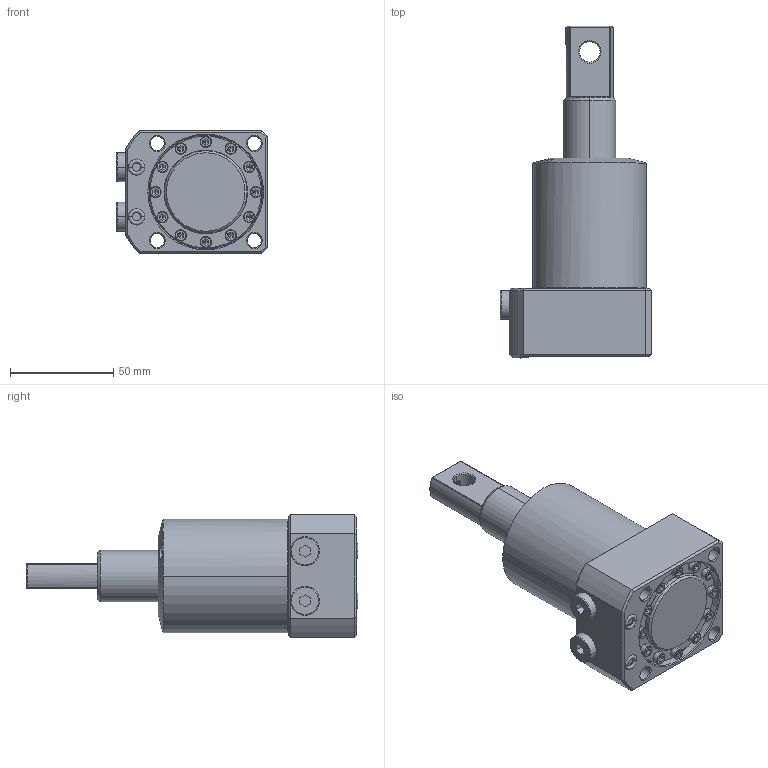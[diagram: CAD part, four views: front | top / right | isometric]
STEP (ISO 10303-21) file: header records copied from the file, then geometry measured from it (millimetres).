
FILE_DESCRIPTION((''),'2;1');
FILE_NAME('SIMP_GENERIC_SWING_CYD_55_PIN_ASM','2023-04-16T15:55:19',('Design 2'),(''),'CREO PARAMETRIC BY PTC INC, 2020053','CREO PARAMETRIC BY PTC INC, 2020053','');
FILE_SCHEMA(('CONFIG_CONTROL_DESIGN'));
Length unit declared in the file: millimetre
Products named in the file (13): BODY___; BODY_TOP_FLG____ASM; PIN_PISTON__D; PISTON_ASM____ASM; SWINGER_ARM___; SWINGER_ARM_ASM____ASM; 1_____; 2_____; HALDER_SEALING-PLUG-228800______ASM; G-1-8-CLOSE_PLUGE__; STATIC-O-RING-8X2S__; ISHCS03X12__; SIMP_GENERIC_SWING_CYD_55_PIN_ASM
Assembly tree (25 placements, depth 3):
  SIMP_GENERIC_SWING_CYD_55_PIN_ASM
    BODY_TOP_FLG____ASM
      BODY___
    PISTON_ASM____ASM
      PIN_PISTON__D
    SWINGER_ARM_ASM____ASM
      SWINGER_ARM___
    HALDER_SEALING-PLUG-228800______ASM
      1_____
      2_____
    G-1-8-CLOSE_PLUGE__  x2
    STATIC-O-RING-8X2S__  x2
    ISHCS03X12__  x12
Bounding box: 73.3 x 160.7 x 60 mm (x, y, z)
Volume: 283814.2 mm3; surface area: 59471.8 mm2
Topology: 21 solids, 21 shells, 787 faces, 1712 edges, 982 vertices
Faces by surface type: plane 258, cylinder 241, cone 224, torus 42, bspline 19, sphere 3
Entity records: 14087 total; most frequent: CARTESIAN_POINT 4615, DIRECTION 2053, ORIENTED_EDGE 1804, EDGE_CURVE 902, AXIS2_PLACEMENT_3D 821, VERTEX_POINT 532, EDGE_LOOP 470, VECTOR 411
